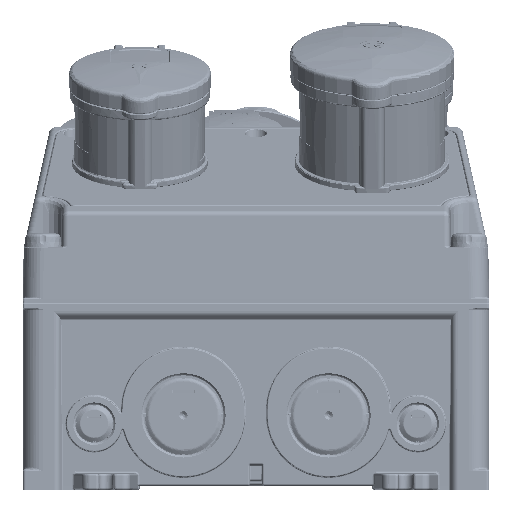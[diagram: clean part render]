
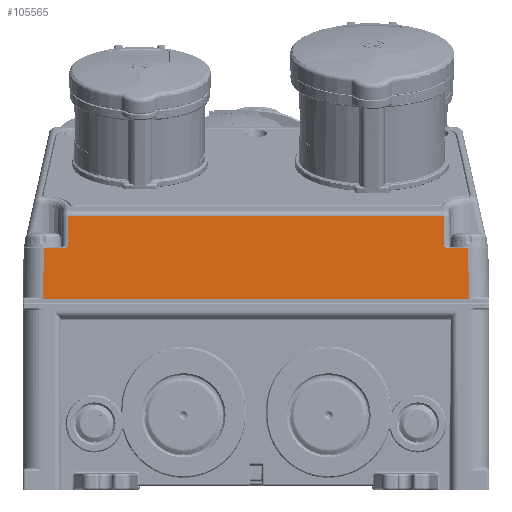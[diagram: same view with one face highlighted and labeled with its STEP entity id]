
A CAD part, front view. The second image highlights one B-rep face of the part: STEP entity #105565.
In plain terms, the highlighted planar face has unit normal (0, -1, 0.018).
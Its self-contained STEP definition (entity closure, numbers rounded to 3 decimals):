
#943=CARTESIAN_POINT('',(215.25,0.001,92.059));
#994=DIRECTION('',(-1.,0.,0.));
#995=VECTOR('',#994,8.749);
#996=CARTESIAN_POINT('',(223.999,0.001,92.059));
#997=LINE('46484',#996,#995);
#5433=DIRECTION('',(-1.,0.,0.));
#5434=VECTOR('',#5433,9.246);
#5435=CARTESIAN_POINT('',(214.824,0.428,116.509));
#5436=LINE('47214',#5435,#5434);
#5557=CARTESIAN_POINT('',(203.146,0.445,117.491));
#5564=CARTESIAN_POINT('',(205.578,0.428,116.509));
#5565=CARTESIAN_POINT('',(205.518,0.428,116.509));
#5566=CARTESIAN_POINT('',(205.395,0.428,116.514));
#5567=CARTESIAN_POINT('',(205.199,0.428,116.538));
#5568=CARTESIAN_POINT('',(204.983,0.429,116.583));
#5569=CARTESIAN_POINT('',(204.746,0.43,116.651));
#5570=CARTESIAN_POINT('',(204.483,0.432,116.748));
#5571=CARTESIAN_POINT('',(204.194,0.434,116.878));
#5572=CARTESIAN_POINT('',(203.877,0.437,117.045));
#5573=CARTESIAN_POINT('',(203.532,0.441,117.248));
#5574=CARTESIAN_POINT('',(203.279,0.443,117.407));
#5575=CARTESIAN_POINT('',(203.146,0.445,117.491));
#5577=DIRECTION('',(0.017,0.017,1.));
#5578=VECTOR('',#5577,24.457);
#5579=CARTESIAN_POINT('',(9.75,0.001,92.059));
#5580=LINE('47238',#5579,#5578);
#5581=DIRECTION('',(0.009,0.017,1.));
#5582=VECTOR('',#5581,14.45);
#5583=CARTESIAN_POINT('',(21.854,0.445,117.491));
#5584=LINE('47241',#5583,#5582);
#5585=DIRECTION('',(0.009,-0.017,-1.));
#5586=VECTOR('',#5585,14.45);
#5587=CARTESIAN_POINT('',(203.02,0.697,131.938));
#5588=LINE('47243',#5587,#5586);
#5589=DIRECTION('',(0.017,-0.017,-1.));
#5590=VECTOR('',#5589,24.457);
#5591=CARTESIAN_POINT('',(214.824,0.428,116.509));
#5592=LINE('46477',#5591,#5590);
#5600=DIRECTION('',(-1.,0.,0.));
#5601=VECTOR('',#5600,8.749);
#5602=CARTESIAN_POINT('',(9.75,0.001,92.059));
#5603=LINE('47237',#5602,#5601);
#5703=DIRECTION('',(-0.012,-0.017,-1.));
#5704=VECTOR('',#5703,0.059);
#5705=CARTESIAN_POINT('',(1.001,0.001,92.059));
#5706=LINE('47246',#5705,#5704);
#64425=DIRECTION('',(1.,0.,0.));
#64426=VECTOR('',#64425,223.);
#64427=CARTESIAN_POINT('',(1.,0.,
92.));
#64428=LINE('47245',#64427,#64426);
#64445=DIRECTION('',(-0.012,0.017,1.));
#64446=VECTOR('',#64445,0.059);
#64447=CARTESIAN_POINT('',(224.,0.,
92.));
#64448=LINE('47244',#64447,#64446);
#65690=CARTESIAN_POINT('',(21.854,0.445,
117.491));
#65691=CARTESIAN_POINT('',(21.721,0.443,
117.407));
#65692=CARTESIAN_POINT('',(21.469,0.441,
117.248));
#65693=CARTESIAN_POINT('',(21.123,0.437,
117.045));
#65694=CARTESIAN_POINT('',(20.807,0.434,
116.879));
#65695=CARTESIAN_POINT('',(20.518,0.432,
116.748));
#65696=CARTESIAN_POINT('',(20.255,0.43,116.651));
#65697=CARTESIAN_POINT('',(20.017,0.429,
116.583));
#65698=CARTESIAN_POINT('',(19.802,0.428,
116.538));
#65699=CARTESIAN_POINT('',(19.605,0.428,
116.514));
#65700=CARTESIAN_POINT('',(19.482,0.428,
116.509));
#65701=CARTESIAN_POINT('',(19.422,0.428,
116.509));
#65712=DIRECTION('',(-1.,0.,0.));
#65713=VECTOR('',#65712,9.246);
#65714=CARTESIAN_POINT('',(19.422,0.428,
116.509));
#65715=LINE('47239',#65714,#65713);
#71150=DIRECTION('',(-1.,0.,0.));
#71151=VECTOR('',#71150,181.04);
#71152=CARTESIAN_POINT('',(203.02,0.697,
131.938));
#71153=LINE('47242',#71152,#71151);
#79528=VERTEX_POINT('',#943);
#79529=CARTESIAN_POINT('',(214.824,0.428,
116.509));
#79530=VERTEX_POINT('',#79529);
#79535=CARTESIAN_POINT('',(223.999,0.001,
92.059));
#79536=VERTEX_POINT('',#79535);
#80266=CARTESIAN_POINT('',(205.578,0.428,
116.509));
#80267=VERTEX_POINT('',#80266);
#80287=VERTEX_POINT('',#5557);
#80288=CARTESIAN_POINT('',(9.75,0.001,
92.059));
#80289=CARTESIAN_POINT('',(1.001,0.001,
92.059));
#80290=VERTEX_POINT('',#80288);
#80291=VERTEX_POINT('',#80289);
#80292=CARTESIAN_POINT('',(10.176,0.428,
116.509));
#80293=VERTEX_POINT('',#80292);
#80294=CARTESIAN_POINT('',(19.422,0.428,
116.509));
#80295=VERTEX_POINT('',#80294);
#80296=VERTEX_POINT('',#65690);
#80297=CARTESIAN_POINT('',(21.98,0.697,
131.938));
#80298=VERTEX_POINT('',#80297);
#80299=CARTESIAN_POINT('',(203.02,0.697,
131.938));
#80300=VERTEX_POINT('',#80299);
#80301=CARTESIAN_POINT('',(224.,0.,
92.));
#80302=VERTEX_POINT('',#80301);
#80303=CARTESIAN_POINT('',(1.,0.,
92.));
#80304=VERTEX_POINT('',#80303);
#105534=CARTESIAN_POINT('',(0.,0.733,134.));
#105535=DIRECTION('',(0.,-1.,0.017));
#105536=DIRECTION('',(0.,-0.017,-1.));
#105537=AXIS2_PLACEMENT_3D('',#105534,#105535,#105536);
#105538=PLANE('60300',#105537);
#105540=ORIENTED_EDGE('47237',*,*,#105539,.F.);
#105542=ORIENTED_EDGE('47238',*,*,#105541,.T.);
#105544=ORIENTED_EDGE('47239',*,*,#105543,.F.);
#105546=ORIENTED_EDGE('47240',*,*,#105545,.F.);
#105548=ORIENTED_EDGE('47241',*,*,#105547,.T.);
#105550=ORIENTED_EDGE('47242',*,*,#105549,.F.);
#105552=ORIENTED_EDGE('47243',*,*,#105551,.T.);
#105553=ORIENTED_EDGE('47236',*,*,#105517,.F.);
#105554=ORIENTED_EDGE('47214',*,*,#105240,.F.);
#105555=ORIENTED_EDGE('46477',*,*,#95638,.T.);
#105556=ORIENTED_EDGE('46484',*,*,#95731,.F.);
#105558=ORIENTED_EDGE('47244',*,*,#105557,.F.);
#105560=ORIENTED_EDGE('47245',*,*,#105559,.F.);
#105562=ORIENTED_EDGE('47246',*,*,#105561,.F.);
#105563=EDGE_LOOP('60300',(#105540,#105542,#105544,#105546,#105548,#105550,
#105552,#105553,#105554,#105555,#105556,#105558,#105560,#105562));
#105564=FACE_OUTER_BOUND('60300',#105563,.F.);
#5576=B_SPLINE_CURVE_WITH_KNOTS('47236',3,(#5564,#5565,#5566,#5567,#5568,#5569,
#5570,#5571,#5572,#5573,#5574,#5575),.UNSPECIFIED.,.F.,.F.,(4,1,1,1,1,1,1,1,1,
4),(0.,0.111,0.222,0.333,
0.444,0.556,0.667,0.778,
0.889,1.),.UNSPECIFIED.);
#65702=B_SPLINE_CURVE_WITH_KNOTS('47240',3,(#65690,#65691,#65692,#65693,#65694,
#65695,#65696,#65697,#65698,#65699,#65700,#65701),.UNSPECIFIED.,.F.,.F.,(4,1,1,
1,1,1,1,1,1,4),(0.,0.111,0.222,0.333,
0.444,0.556,0.667,0.778,
0.889,1.),.UNSPECIFIED.);
#95638=EDGE_CURVE('46477',#79530,#79528,#5592,.T.);
#95731=EDGE_CURVE('46484',#79536,#79528,#997,.T.);
#105240=EDGE_CURVE('47214',#79530,#80267,#5436,.T.);
#105517=EDGE_CURVE('47236',#80267,#80287,#5576,.T.);
#105539=EDGE_CURVE('47237',#80290,#80291,#5603,.T.);
#105541=EDGE_CURVE('47238',#80290,#80293,#5580,.T.);
#105543=EDGE_CURVE('47239',#80295,#80293,#65715,.T.);
#105545=EDGE_CURVE('47240',#80296,#80295,#65702,.T.);
#105547=EDGE_CURVE('47241',#80296,#80298,#5584,.T.);
#105549=EDGE_CURVE('47242',#80300,#80298,#71153,.T.);
#105551=EDGE_CURVE('47243',#80300,#80287,#5588,.T.);
#105557=EDGE_CURVE('47244',#80302,#79536,#64448,.T.);
#105559=EDGE_CURVE('47245',#80304,#80302,#64428,.T.);
#105561=EDGE_CURVE('47246',#80291,#80304,#5706,.T.);
#105565=ADVANCED_FACE('60300',(#105564),#105538,.T.);
